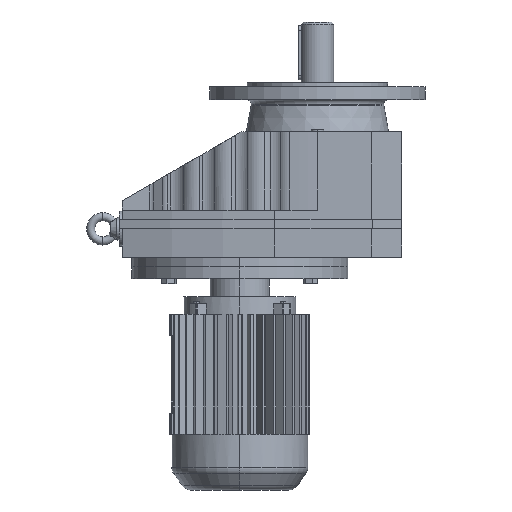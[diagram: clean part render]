
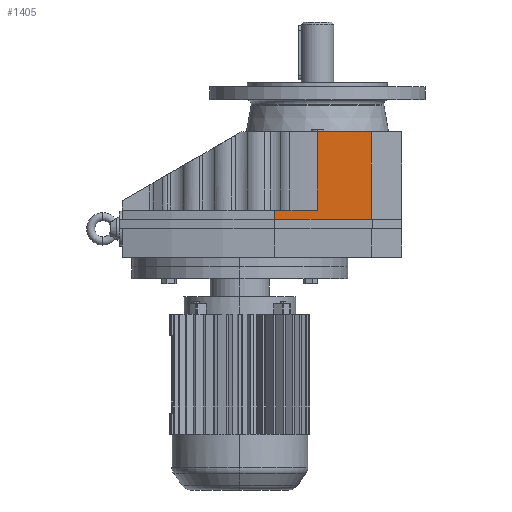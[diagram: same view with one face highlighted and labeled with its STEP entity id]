
A CAD part, left-side view. The second image highlights one B-rep face of the part: STEP entity #1405.
In plain terms, the highlighted planar face has unit normal (-1, 0, 0).
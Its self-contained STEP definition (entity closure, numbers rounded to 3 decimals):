
#39 = VERTEX_POINT('',#40);
#40 = CARTESIAN_POINT('',(-102.,-72.,125.25));
#48 = CYLINDRICAL_SURFACE('',#49,287.521);
#49 = AXIS2_PLACEMENT_3D('',#50,#51,#52);
#50 = CARTESIAN_POINT('',(185.521,-72.,52.566));
#51 = DIRECTION('',(0.,0.,1.));
#52 = DIRECTION('',(1.,0.,0.));
#59 = PLANE('',#60);
#60 = AXIS2_PLACEMENT_3D('',#61,#62,#63);
#61 = CARTESIAN_POINT('',(-302.511,-32.35,125.25));
#62 = DIRECTION('',(0.,0.,1.));
#63 = DIRECTION('',(1.,0.,0.));
#98 = VERTEX_POINT('',#99);
#99 = CARTESIAN_POINT('',(-102.,-72.,52.566));
#113 = PLANE('',#114);
#114 = AXIS2_PLACEMENT_3D('',#115,#116,#117);
#115 = CARTESIAN_POINT('',(-64.163,83.725,52.566));
#116 = DIRECTION('',(0.,0.,1.));
#117 = DIRECTION('',(-1.,0.,0.));
#125 = EDGE_CURVE('',#98,#39,#126,.T.);
#126 = SURFACE_CURVE('',#127,(#131,#137),.PCURVE_S1.);
#127 = LINE('',#128,#129);
#128 = CARTESIAN_POINT('',(-102.,-72.,52.566));
#129 = VECTOR('',#130,1.);
#130 = DIRECTION('',(0.,0.,1.));
#131 = PCURVE('',#48,#132);
#132 = DEFINITIONAL_REPRESENTATION('',(#133),#136);
#133 = B_SPLINE_CURVE_WITH_KNOTS('',1,(#134,#135),.UNSPECIFIED.,.F.,.F.,
  (2,2),(0.,72.684),.PIECEWISE_BEZIER_KNOTS.);
#134 = CARTESIAN_POINT('',(3.142,0.));
#135 = CARTESIAN_POINT('',(3.142,72.684));
#136 = ( GEOMETRIC_REPRESENTATION_CONTEXT(2) 
PARAMETRIC_REPRESENTATION_CONTEXT() REPRESENTATION_CONTEXT('2D SPACE',''
  ) );
#137 = PCURVE('',#138,#143);
#138 = PLANE('',#139);
#139 = AXIS2_PLACEMENT_3D('',#140,#141,#142);
#140 = CARTESIAN_POINT('',(-102.,-121.8,125.25));
#141 = DIRECTION('',(1.,0.,0.));
#142 = DIRECTION('',(0.,1.,0.));
#143 = DEFINITIONAL_REPRESENTATION('',(#144),#148);
#144 = LINE('',#145,#146);
#145 = CARTESIAN_POINT('',(49.8,-72.684));
#146 = VECTOR('',#147,1.);
#147 = DIRECTION('',(0.,1.));
#148 = ( GEOMETRIC_REPRESENTATION_CONTEXT(2) 
PARAMETRIC_REPRESENTATION_CONTEXT() REPRESENTATION_CONTEXT('2D SPACE',''
  ) );
#156 = VERTEX_POINT('',#157);
#157 = CARTESIAN_POINT('',(-102.,-32.35,52.566));
#172 = CYLINDRICAL_SURFACE('',#173,404.511);
#173 = AXIS2_PLACEMENT_3D('',#174,#175,#176);
#174 = CARTESIAN_POINT('',(302.511,-32.35,125.25));
#175 = DIRECTION('',(0.,0.,-1.));
#176 = DIRECTION('',(-1.,0.,0.));
#183 = EDGE_CURVE('',#156,#98,#184,.T.);
#184 = SURFACE_CURVE('',#185,(#189,#196),.PCURVE_S1.);
#185 = LINE('',#186,#187);
#186 = CARTESIAN_POINT('',(-102.,-121.8,52.566));
#187 = VECTOR('',#188,1.);
#188 = DIRECTION('',(0.,-1.,0.));
#189 = PCURVE('',#113,#190);
#190 = DEFINITIONAL_REPRESENTATION('',(#191),#195);
#191 = LINE('',#192,#193);
#192 = CARTESIAN_POINT('',(37.838,205.525));
#193 = VECTOR('',#194,1.);
#194 = DIRECTION('',(0.,1.));
#195 = ( GEOMETRIC_REPRESENTATION_CONTEXT(2) 
PARAMETRIC_REPRESENTATION_CONTEXT() REPRESENTATION_CONTEXT('2D SPACE',''
  ) );
#196 = PCURVE('',#138,#197);
#197 = DEFINITIONAL_REPRESENTATION('',(#198),#202);
#198 = LINE('',#199,#200);
#199 = CARTESIAN_POINT('',(0.,-72.684));
#200 = VECTOR('',#201,1.);
#201 = DIRECTION('',(-1.,0.));
#202 = ( GEOMETRIC_REPRESENTATION_CONTEXT(2) 
PARAMETRIC_REPRESENTATION_CONTEXT() REPRESENTATION_CONTEXT('2D SPACE',''
  ) );
#927 = EDGE_CURVE('',#39,#928,#930,.T.);
#928 = VERTEX_POINT('',#929);
#929 = CARTESIAN_POINT('',(-102.,-121.8,125.25));
#930 = SURFACE_CURVE('',#931,(#935,#942),.PCURVE_S1.);
#931 = LINE('',#932,#933);
#932 = CARTESIAN_POINT('',(-102.,-121.8,125.25));
#933 = VECTOR('',#934,1.);
#934 = DIRECTION('',(0.,-1.,0.));
#935 = PCURVE('',#59,#936);
#936 = DEFINITIONAL_REPRESENTATION('',(#937),#941);
#937 = LINE('',#938,#939);
#938 = CARTESIAN_POINT('',(200.511,-89.45));
#939 = VECTOR('',#940,1.);
#940 = DIRECTION('',(0.,-1.));
#941 = ( GEOMETRIC_REPRESENTATION_CONTEXT(2) 
PARAMETRIC_REPRESENTATION_CONTEXT() REPRESENTATION_CONTEXT('2D SPACE',''
  ) );
#942 = PCURVE('',#138,#943);
#943 = DEFINITIONAL_REPRESENTATION('',(#944),#948);
#944 = LINE('',#945,#946);
#945 = CARTESIAN_POINT('',(0.,0.));
#946 = VECTOR('',#947,1.);
#947 = DIRECTION('',(-1.,0.));
#948 = ( GEOMETRIC_REPRESENTATION_CONTEXT(2) 
PARAMETRIC_REPRESENTATION_CONTEXT() REPRESENTATION_CONTEXT('2D SPACE',''
  ) );
#966 = PLANE('',#967);
#967 = AXIS2_PLACEMENT_3D('',#968,#969,#970);
#968 = CARTESIAN_POINT('',(-73.8,-150.,125.25));
#969 = DIRECTION('',(0.707,0.707,0.));
#970 = DIRECTION('',(-0.707,0.707,0.));
#1405 = ADVANCED_FACE('',(#1406),#138,.F.);
#1406 = FACE_BOUND('',#1407,.T.);
#1407 = EDGE_LOOP('',(#1408,#1430,#1458,#1479,#1480,#1481));
#1408 = ORIENTED_EDGE('',*,*,#1409,.T.);
#1409 = EDGE_CURVE('',#156,#1410,#1412,.T.);
#1410 = VERTEX_POINT('',#1411);
#1411 = CARTESIAN_POINT('',(-102.,-32.35,43.853));
#1412 = SURFACE_CURVE('',#1413,(#1417,#1424),.PCURVE_S1.);
#1413 = LINE('',#1414,#1415);
#1414 = CARTESIAN_POINT('',(-102.,-32.35,125.25));
#1415 = VECTOR('',#1416,1.);
#1416 = DIRECTION('',(0.,0.,-1.));
#1417 = PCURVE('',#138,#1418);
#1418 = DEFINITIONAL_REPRESENTATION('',(#1419),#1423);
#1419 = LINE('',#1420,#1421);
#1420 = CARTESIAN_POINT('',(89.45,0.));
#1421 = VECTOR('',#1422,1.);
#1422 = DIRECTION('',(0.,-1.));
#1423 = ( GEOMETRIC_REPRESENTATION_CONTEXT(2) 
PARAMETRIC_REPRESENTATION_CONTEXT() REPRESENTATION_CONTEXT('2D SPACE',''
  ) );
#1424 = PCURVE('',#172,#1425);
#1425 = DEFINITIONAL_REPRESENTATION('',(#1426),#1429);
#1426 = B_SPLINE_CURVE_WITH_KNOTS('',1,(#1427,#1428),.UNSPECIFIED.,.F.,
  .F.,(2,2),(72.684,81.397),.PIECEWISE_BEZIER_KNOTS.);
#1427 = CARTESIAN_POINT('',(0.,72.684));
#1428 = CARTESIAN_POINT('',(0.,81.397));
#1429 = ( GEOMETRIC_REPRESENTATION_CONTEXT(2) 
PARAMETRIC_REPRESENTATION_CONTEXT() REPRESENTATION_CONTEXT('2D SPACE',''
  ) );
#1430 = ORIENTED_EDGE('',*,*,#1431,.F.);
#1431 = EDGE_CURVE('',#1432,#1410,#1434,.T.);
#1432 = VERTEX_POINT('',#1433);
#1433 = CARTESIAN_POINT('',(-102.,-121.8,43.853));
#1434 = SURFACE_CURVE('',#1435,(#1439,#1446),.PCURVE_S1.);
#1435 = LINE('',#1436,#1437);
#1436 = CARTESIAN_POINT('',(-102.,-121.8,43.853));
#1437 = VECTOR('',#1438,1.);
#1438 = DIRECTION('',(0.,1.,0.));
#1439 = PCURVE('',#138,#1440);
#1440 = DEFINITIONAL_REPRESENTATION('',(#1441),#1445);
#1441 = LINE('',#1442,#1443);
#1442 = CARTESIAN_POINT('',(0.,-81.397));
#1443 = VECTOR('',#1444,1.);
#1444 = DIRECTION('',(1.,0.));
#1445 = ( GEOMETRIC_REPRESENTATION_CONTEXT(2) 
PARAMETRIC_REPRESENTATION_CONTEXT() REPRESENTATION_CONTEXT('2D SPACE',''
  ) );
#1446 = PCURVE('',#1447,#1452);
#1447 = PLANE('',#1448);
#1448 = AXIS2_PLACEMENT_3D('',#1449,#1450,#1451);
#1449 = CARTESIAN_POINT('',(-302.511,-32.35,43.853));
#1450 = DIRECTION('',(0.,0.,1.));
#1451 = DIRECTION('',(1.,0.,0.));
#1452 = DEFINITIONAL_REPRESENTATION('',(#1453),#1457);
#1453 = LINE('',#1454,#1455);
#1454 = CARTESIAN_POINT('',(200.511,-89.45));
#1455 = VECTOR('',#1456,1.);
#1456 = DIRECTION('',(0.,1.));
#1457 = ( GEOMETRIC_REPRESENTATION_CONTEXT(2) 
PARAMETRIC_REPRESENTATION_CONTEXT() REPRESENTATION_CONTEXT('2D SPACE',''
  ) );
#1458 = ORIENTED_EDGE('',*,*,#1459,.F.);
#1459 = EDGE_CURVE('',#928,#1432,#1460,.T.);
#1460 = SURFACE_CURVE('',#1461,(#1465,#1472),.PCURVE_S1.);
#1461 = LINE('',#1462,#1463);
#1462 = CARTESIAN_POINT('',(-102.,-121.8,125.25));
#1463 = VECTOR('',#1464,1.);
#1464 = DIRECTION('',(0.,0.,-1.));
#1465 = PCURVE('',#138,#1466);
#1466 = DEFINITIONAL_REPRESENTATION('',(#1467),#1471);
#1467 = LINE('',#1468,#1469);
#1468 = CARTESIAN_POINT('',(0.,0.));
#1469 = VECTOR('',#1470,1.);
#1470 = DIRECTION('',(0.,-1.));
#1471 = ( GEOMETRIC_REPRESENTATION_CONTEXT(2) 
PARAMETRIC_REPRESENTATION_CONTEXT() REPRESENTATION_CONTEXT('2D SPACE',''
  ) );
#1472 = PCURVE('',#966,#1473);
#1473 = DEFINITIONAL_REPRESENTATION('',(#1474),#1478);
#1474 = LINE('',#1475,#1476);
#1475 = CARTESIAN_POINT('',(39.881,0.));
#1476 = VECTOR('',#1477,1.);
#1477 = DIRECTION('',(0.,-1.));
#1478 = ( GEOMETRIC_REPRESENTATION_CONTEXT(2) 
PARAMETRIC_REPRESENTATION_CONTEXT() REPRESENTATION_CONTEXT('2D SPACE',''
  ) );
#1479 = ORIENTED_EDGE('',*,*,#927,.F.);
#1480 = ORIENTED_EDGE('',*,*,#125,.F.);
#1481 = ORIENTED_EDGE('',*,*,#183,.F.);
